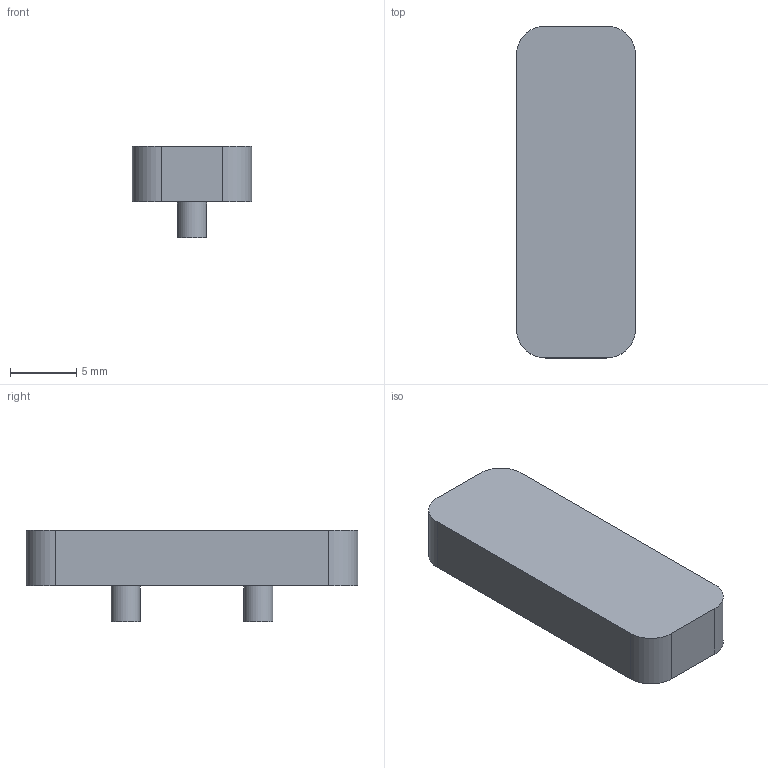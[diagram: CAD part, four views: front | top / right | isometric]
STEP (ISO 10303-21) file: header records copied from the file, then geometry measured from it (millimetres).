
FILE_DESCRIPTION(('Open CASCADE Model'),'2;1');
FILE_NAME('Open CASCADE Shape Model','2026-09-17T20:02:03',('Author'),( 'Open CASCADE'),'Open CASCADE STEP processor 7.7','Open CASCADE 7.7' ,'Unknown');
FILE_SCHEMA(('AUTOMOTIVE_DESIGN { 1 0 10303 214 1 1 1 1 }'));
Length unit declared in the file: millimetre
Products named in the file (1): Open CASCADE STEP translator 7.7 6
Bounding box: 9 x 25 x 6.9 mm (x, y, z)
Volume: 948.1 mm3; surface area: 748.7 mm2
Topology: 1 solids, 1 shells, 14 faces, 30 edges, 20 vertices
Faces by surface type: plane 8, cylinder 6
Full cylindrical faces by diameter (mm): 2.2 x2
Entity records: 792 total; most frequent: CARTESIAN_POINT 137, DIRECTION 130, LINE 66, VECTOR 66, ORIENTED_EDGE 60, PCURVE 60, DEFINITIONAL_REPRESENTATION 60, EDGE_CURVE 30
